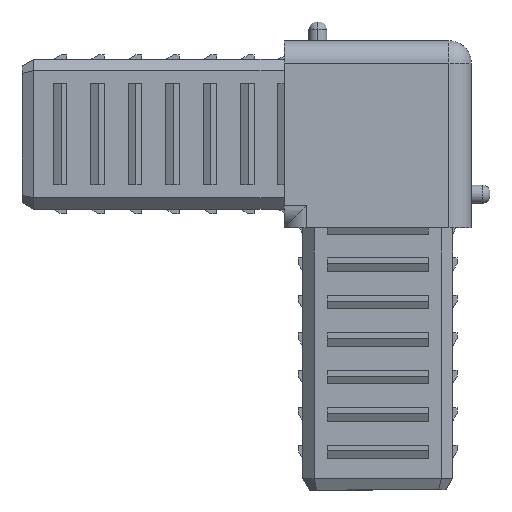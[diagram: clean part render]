
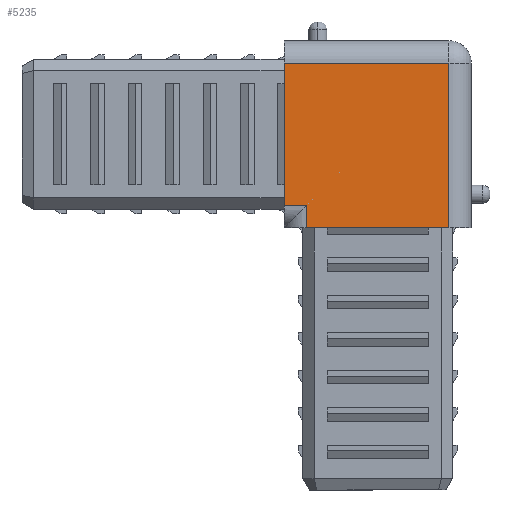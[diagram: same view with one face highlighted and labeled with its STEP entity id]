
A CAD part, left-side view. The second image highlights one B-rep face of the part: STEP entity #5235.
In plain terms, the highlighted planar face has unit normal (-1, 0, 0).
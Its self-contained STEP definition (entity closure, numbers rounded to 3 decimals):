
#99 = LINE ( 'NONE', #5281, #8086 ) ;
#137 = VERTEX_POINT ( 'NONE', #9957 ) ;
#225 = CARTESIAN_POINT ( 'NONE',  ( -12.5, -9.5, 9.5 ) ) ;
#1174 = ORIENTED_EDGE ( 'NONE', *, *, #2936, .F. ) ;
#1219 = CARTESIAN_POINT ( 'NONE',  ( -12.5, 12.5, -9.5 ) ) ;
#1339 = VERTEX_POINT ( 'NONE', #8451 ) ;
#1799 = CARTESIAN_POINT ( 'NONE',  ( -12.5, 9.5, -9.5 ) ) ;
#1962 = DIRECTION ( 'NONE',  ( 0., 0., -1. ) ) ;
#2137 = VERTEX_POINT ( 'NONE', #7960 ) ;
#2467 = CARTESIAN_POINT ( 'NONE',  ( -12.5, -12.5, 12.5 ) ) ;
#2745 = CARTESIAN_POINT ( 'NONE',  ( -12.5, 12.5, 12.5 ) ) ;
#2936 = EDGE_CURVE ( 'NONE', #2137, #5733, #4302, .T. ) ;
#3123 = CARTESIAN_POINT ( 'NONE',  ( -12.5, -12.5, 9.5 ) ) ;
#3133 = VECTOR ( 'NONE', #9166, 1000. ) ;
#3289 = LINE ( 'NONE', #5331, #4793 ) ;
#3311 = DIRECTION ( 'NONE',  ( 0., 0., 1. ) ) ;
#3484 = FACE_OUTER_BOUND ( 'NONE', #5765, .T. ) ;
#3792 = DIRECTION ( 'NONE',  ( 0., 1., 0. ) ) ;
#4030 = DIRECTION ( 'NONE',  ( 1., 0., 0. ) ) ;
#4119 = ORIENTED_EDGE ( 'NONE', *, *, #9061, .T. ) ;
#4259 = VERTEX_POINT ( 'NONE', #225 ) ;
#4302 = LINE ( 'NONE', #1799, #7096 ) ;
#4413 = EDGE_CURVE ( 'NONE', #2137, #1339, #8603, .T. ) ;
#4487 = DIRECTION ( 'NONE',  ( 0., 0., 1. ) ) ;
#4659 = VECTOR ( 'NONE', #1962, 1000. ) ;
#4793 = VECTOR ( 'NONE', #4487, 1000. ) ;
#4832 = EDGE_CURVE ( 'NONE', #5733, #8575, #99, .T. ) ;
#5235 = ADVANCED_FACE ( 'NONE', ( #3484 ), #10308, .F. ) ;
#5281 = CARTESIAN_POINT ( 'NONE',  ( -12.5, 9.5, -9.5 ) ) ;
#5331 = CARTESIAN_POINT ( 'NONE',  ( -12.5, -9.5, 12.5 ) ) ;
#5589 = EDGE_CURVE ( 'NONE', #4259, #137, #8201, .T. ) ;
#5733 = VERTEX_POINT ( 'NONE', #8969 ) ;
#5765 = EDGE_LOOP ( 'NONE', ( #4119, #7124, #1174, #6802, #9892, #9536 ) ) ;
#5790 = DIRECTION ( 'NONE',  ( 0., 0., -1. ) ) ;
#6710 = CARTESIAN_POINT ( 'NONE',  ( -12.5, -12.5, -12.5 ) ) ;
#6802 = ORIENTED_EDGE ( 'NONE', *, *, #4413, .T. ) ;
#6813 = DIRECTION ( 'NONE',  ( 0., 1., 0. ) ) ;
#6964 = LINE ( 'NONE', #2745, #4659 ) ;
#7096 = VECTOR ( 'NONE', #3311, 1000. ) ;
#7124 = ORIENTED_EDGE ( 'NONE', *, *, #4832, .F. ) ;
#7617 = AXIS2_PLACEMENT_3D ( 'NONE', #2467, #4030, #5790 ) ;
#7960 = CARTESIAN_POINT ( 'NONE',  ( -12.5, 9.5, -12.5 ) ) ;
#8086 = VECTOR ( 'NONE', #6813, 1000. ) ;
#8201 = LINE ( 'NONE', #3123, #8813 ) ;
#8451 = CARTESIAN_POINT ( 'NONE',  ( -12.5, -9.5, -12.5 ) ) ;
#8558 = EDGE_CURVE ( 'NONE', #1339, #4259, #3289, .T. ) ;
#8575 = VERTEX_POINT ( 'NONE', #1219 ) ;
#8603 = LINE ( 'NONE', #6710, #3133 ) ;
#8813 = VECTOR ( 'NONE', #3792, 1000. ) ;
#8969 = CARTESIAN_POINT ( 'NONE',  ( -12.5, 9.5, -9.5 ) ) ;
#9061 = EDGE_CURVE ( 'NONE', #137, #8575, #6964, .T. ) ;
#9166 = DIRECTION ( 'NONE',  ( 0., -1., 0. ) ) ;
#9536 = ORIENTED_EDGE ( 'NONE', *, *, #5589, .T. ) ;
#9892 = ORIENTED_EDGE ( 'NONE', *, *, #8558, .T. ) ;
#9957 = CARTESIAN_POINT ( 'NONE',  ( -12.5, 12.5, 9.5 ) ) ;
#10308 = PLANE ( 'NONE',  #7617 ) ;
